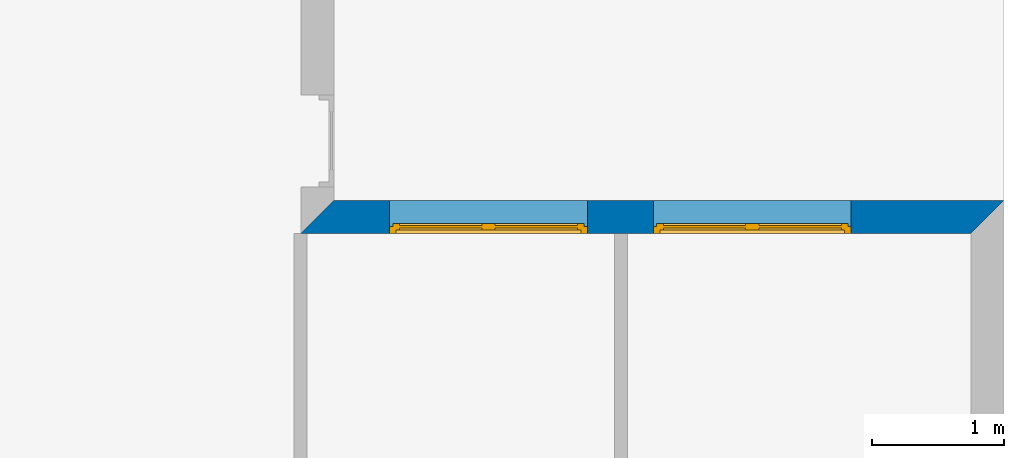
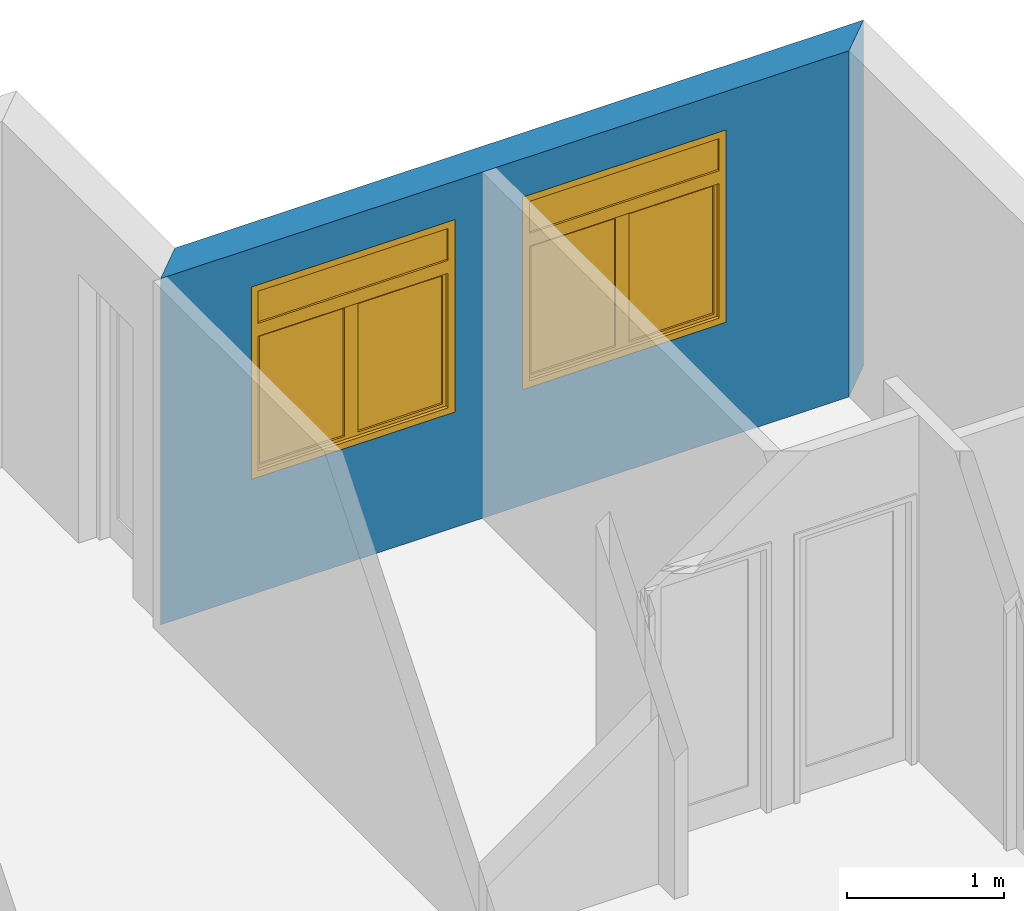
# One storey, part 13 of 13: 2 windows, 1 wall, 2 openings.
"""IFC2X3 building model written with IfcOpenShell, lengths in metres."""

from ifc_helpers import new_model, entity, si_unit, converted_unit, direction, frame, frame_2d, origin_with_axes, place, context, project, spatial, polyline, rectangle, outline, extrude, faceted_brep, source, transform, mapped, material, layer, layer_set, layer_usage, type_object, element, fill, save


model = new_model("IFC2X3")

# Units and contexts
context_of_model = context(None, 3, precision=1e-05, world=origin_with_axes(), true_north=direction((6.123234e-17, 1.0)))
plan_context = context("Plan", 3, precision=1e-05, world=origin_with_axes(), true_north=direction((6.123234e-17, 1.0)))
model_context = context("Model", 3, precision=1e-05, world=origin_with_axes(), true_north=direction((6.123234e-17, 1.0)))
ifc_project = project(units=[si_unit("LENGTHUNIT", "METRE"), si_unit("AREAUNIT", "SQUARE_METRE"), si_unit("VOLUMEUNIT", "CUBIC_METRE"), converted_unit("PLANEANGLEUNIT", "DEGREE", entity("IfcPlaneAngleMeasure", 0.017453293), si_unit("PLANEANGLEUNIT", "RADIAN"), dimensions=[0, 0, 0, 0, 0, 0, 0]), si_unit("SOLIDANGLEUNIT", "STERADIAN"), si_unit("MASSUNIT", "GRAM"), si_unit("TIMEUNIT", "SECOND"), si_unit("THERMODYNAMICTEMPERATUREUNIT", "DEGREE_CELSIUS"), si_unit("LUMINOUSINTENSITYUNIT", "LUMEN")], contexts=[context_of_model, plan_context, model_context])

# Site, building, storey
site_placement = place(None, origin_with_axes())
site = spatial("IfcSite", under=ifc_project, at=site_placement, Name="Por defecto Sitio", CompositionType="ELEMENT")
building_placement = place(site_placement, origin_with_axes())
building = spatial("IfcBuilding", under=site, at=building_placement, Name="Por defecto Edificio", CompositionType="ELEMENT")
storey_placement = place(building_placement, frame((0.0, 0.0, 7.2), z_axis=(0.0, 0.0, 1.0), x_axis=(1.0, 0.0, 0.0)))
storey = spatial("IfcBuildingStorey", under=building, at=storey_placement, Name="Segunda", CompositionType="ELEMENT", Elevation=7.2)

# Wall, openings, windows
ifc_material = material(Name="Ladrillo común")
ifc_layer = layer(ifc_material, 0.25, ventilated="UNKNOWN")
ifc_layer_set = layer_set([ifc_layer], Name="Ladrillo común")
ifc_layer_usage = layer_usage(ifc_layer_set, "AXIS2", "NEGATIVE", 0.0)
wall_type = type_object("IfcWallType", Name="Ladrillo común", PredefinedType="NOTDEFINED")
wall_placement = place(storey_placement, frame((10.956053, 13.449173, 0.0), z_axis=(0.0, 0.0, 1.0), x_axis=(1.0, 0.0, 0.0)))
wall = element("IfcWallStandardCase", 1, at=wall_placement, inside=storey, type_object=wall_type, material=ifc_layer_usage, Name="Muro-016", context=context_of_model, shape_type="SweptSolid", body=[
    extrude(outline(polyline([(-0.25, -0.25), (4.8281164, -0.25), (5.0781164, 0.0), (0.0, 0.0), (-0.25, -0.25)])), origin_with_axes(), (0.0, 0.0, 1.0), 2.7),
])
opening_1_placement = place(wall_placement, frame((3.1700422, -0.25, 0.9), z_axis=(0.0, 0.0, 1.0), x_axis=(1.0, 0.0, 0.0)))
opening_1 = element("IfcOpeningElement", 2, at=opening_1_placement, cuts=wall, ObjectType="Opening", context=model_context, shape_type="SweptSolid", body=[
    extrude(rectangle(XDim=1.5, YDim=1.5, at=frame_2d((0.0, 0.75), x_axis=(-1.0, 0.0))), frame((0.0, 0.0, 0.0), z_axis=(0.0, 1.0, 0.0), x_axis=(-1.0, 0.0, 0.0)), (0.0, 0.0, 1.0), 0.25),
])
opening_2_placement = place(wall_placement, frame((1.1700422, -0.25, 0.9), z_axis=(0.0, 0.0, 1.0), x_axis=(1.0, 0.0, 0.0)))
opening_2 = element("IfcOpeningElement", 3, at=opening_2_placement, cuts=wall, ObjectType="Opening", context=model_context, shape_type="SweptSolid", body=[
    extrude(rectangle(XDim=1.5, YDim=1.5, at=frame_2d((0.0, 0.75), x_axis=(-1.0, 0.0))), frame((0.0, 0.0, 0.0), z_axis=(0.0, 1.0, 0.0), x_axis=(-1.0, 0.0, 0.0)), (0.0, 0.0, 1.0), 0.25),
])
window_style_1 = type_object("IfcWindowStyle", Name="V M Doble 12", ConstructionType="NOTDEFINED", OperationType="DOUBLE_PANEL_HORIZONTAL", ParameterTakesPrecedence=False, Sizeable=False)
shared_shape_1 = source(origin_with_axes(), model_context, "Body", "Brep", [
    faceted_brep([(0.025, 0.05, 0.05), (0.0, 0.05, 0.05), (0.0, 0.05, 1.45), (0.05, 0.05, 1.45), (0.05, 0.05, 1.2), (0.05, 0.05, 1.125), (0.025, 0.05, 1.125), (0.025, 0.025, 0.05), (0.05, 0.025, 0.05), (0.05, 0.0, 0.05), (0.0, 0.0, 0.05), (0.0, 0.0, 1.45), (0.05, 0.0, 1.45), (0.05, 0.0, 1.2), (0.05, 0.025, 1.125), (0.05, 0.0, 1.1), (0.05, 0.025, 1.1), (0.025, 0.025, 1.125)], [[[0, 1, 2, 3, 4, 5, 6]], [[7, 8, 9, 10, 1, 0]], [[2, 1, 10, 11]], [[3, 2, 11, 12]], [[4, 3, 12, 13]], [[14, 5, 4, 13, 15, 16]], [[14, 17, 6, 5]], [[6, 17, 7, 0]], [[16, 8, 7, 17, 14]], [[16, 15, 9, 8]], [[13, 12, 11, 10, 9, 15]]]),
    faceted_brep([(1.475, 0.05, 1.125), (1.45, 0.05, 1.125), (1.45, 0.05, 1.2), (1.45, 0.05, 1.45), (1.5, 0.05, 1.45), (1.5, 0.05, 0.05), (1.475, 0.05, 0.05), (1.475, 0.025, 1.125), (1.45, 0.025, 1.125), (1.45, 0.025, 1.1), (1.45, 0.0, 1.1), (1.45, 0.0, 1.2), (1.45, 0.0, 1.45), (1.5, 0.0, 1.45), (1.5, 0.0, 0.05), (1.475, 0.025, 0.05), (1.45, 0.0, 0.05), (1.45, 0.025, 0.05)], [[[0, 1, 2, 3, 4, 5, 6]], [[0, 7, 8, 1]], [[8, 9, 10, 11, 2, 1]], [[3, 2, 11, 12]], [[4, 3, 12, 13]], [[5, 4, 13, 14]], [[15, 6, 5, 14, 16, 17]], [[6, 15, 7, 0]], [[17, 9, 8, 7, 15]], [[17, 16, 10, 9]], [[14, 13, 12, 11, 10, 16]]]),
    faceted_brep([(0.05, 0.05, 1.125), (0.05, 0.05, 1.2), (1.45, 0.05, 1.2), (1.45, 0.05, 1.125), (0.75, 0.05, 1.125), (0.05, 0.025, 1.125), (0.05, 0.025, 1.1), (0.05, 0.0, 1.1), (0.05, 0.0, 1.2), (1.45, 0.0, 1.2), (1.45, 0.025, 1.125), (1.45, 0.0, 1.1), (1.45, 0.025, 1.1), (0.75, 0.025, 1.125)], [[[0, 1, 2, 3, 4]], [[5, 6, 7, 8, 1, 0]], [[2, 1, 8, 9]], [[10, 3, 2, 9, 11, 12]], [[10, 13, 4, 3]], [[4, 13, 5, 0]], [[12, 6, 5, 13, 10]], [[12, 11, 7, 6]], [[9, 8, 7, 11]]]),
    faceted_brep([(1.45, 0.025, 0.05), (1.45, 0.0, 0.05), (1.5, 0.0, 0.05), (1.5, 0.05, 0.05), (1.475, 0.05, 0.05), (1.475, 0.025, 0.05), (0.05, 0.025, 0.05), (0.05, 0.0, 0.05), (0.0, 0.0, 0.05), (0.0, 0.0, 0.0), (1.5, 0.0, 0.0), (1.5, 0.05, 0.0), (0.025, 0.05, 0.025), (0.75, 0.05, 0.025), (1.475, 0.05, 0.025), (0.0, 0.05, 0.0), (0.0, 0.05, 0.05), (0.025, 0.05, 0.05), (1.475, 0.025, 0.025), (0.75, 0.025, 0.025), (0.025, 0.025, 0.025), (0.025, 0.025, 0.05)], [[[0, 1, 2, 3, 4, 5]], [[6, 7, 1, 0]], [[8, 9, 10, 2, 1, 7]], [[11, 3, 2, 10]], [[12, 13, 14, 4, 3, 11, 15, 16, 17]], [[14, 18, 5, 4]], [[5, 18, 19, 20, 21, 6, 0]], [[21, 17, 16, 8, 7, 6]], [[16, 15, 9, 8]], [[15, 11, 10, 9]], [[12, 20, 19, 13]], [[13, 19, 18, 14]], [[21, 20, 12, 17]]]),
    faceted_brep([(1.45, 0.0, 1.45), (1.45, 0.05, 1.45), (1.5, 0.05, 1.45), (1.5, 0.0, 1.45), (0.05, 0.0, 1.45), (0.05, 0.05, 1.45), (0.0, 0.05, 1.45), (0.0, 0.05, 1.5), (1.5, 0.05, 1.5), (1.5, 0.0, 1.5), (0.0, 0.0, 1.5), (0.0, 0.0, 1.45)], [[[0, 1, 2, 3]], [[4, 5, 1, 0]], [[1, 5, 6, 7, 8, 2]], [[3, 2, 8, 9]], [[0, 3, 9, 10, 11, 4]], [[11, 6, 5, 4]], [[10, 7, 6, 11]], [[9, 8, 7, 10]]]),
    faceted_brep([(1.425, 0.025, 0.075), (1.425, 0.025, 1.075), (1.425, 0.075, 1.075), (1.425, 0.075, 0.075), (1.475, 0.025, 0.075), (1.475, 0.025, 1.075), (1.475, 0.075, 1.075), (1.475, 0.075, 0.075)], [[[0, 1, 2, 3]], [[0, 4, 5, 1]], [[1, 5, 6, 2]], [[3, 2, 6, 7]], [[4, 0, 3, 7]], [[5, 4, 7, 6]]]),
    faceted_brep([(0.75, 0.025, 0.075), (0.75, 0.025, 1.075), (0.75, 0.075, 1.075), (0.75, 0.075, 0.075), (0.8, 0.025, 0.075), (0.8, 0.025, 1.075), (0.8, 0.075, 1.075), (0.8, 0.075, 0.075)], [[[0, 1, 2, 3]], [[0, 4, 5, 1]], [[1, 5, 6, 2]], [[3, 2, 6, 7]], [[4, 0, 3, 7]], [[5, 4, 7, 6]]]),
    faceted_brep([(0.75, 0.025, 0.025), (0.75, 0.025, 0.075), (0.75, 0.075, 0.075), (0.75, 0.075, 0.025), (1.475, 0.025, 0.025), (1.475, 0.025, 0.075), (1.425, 0.025, 0.075), (0.8, 0.025, 0.075), (0.8, 0.075, 0.075), (1.425, 0.075, 0.075), (1.475, 0.075, 0.075), (1.475, 0.075, 0.025)], [[[0, 1, 2, 3]], [[0, 4, 5, 6, 7, 1]], [[1, 7, 8, 2]], [[3, 2, 8, 9, 10, 11]], [[4, 0, 3, 11]], [[5, 4, 11, 10]], [[6, 5, 10, 9]], [[7, 6, 9, 8]]]),
    faceted_brep([(1.475, 0.025, 1.125), (1.475, 0.025, 1.075), (1.475, 0.075, 1.075), (1.475, 0.075, 1.125), (0.75, 0.025, 1.125), (0.75, 0.025, 1.075), (0.8, 0.025, 1.075), (1.425, 0.025, 1.075), (1.425, 0.075, 1.075), (0.8, 0.075, 1.075), (0.75, 0.075, 1.075), (0.75, 0.075, 1.125)], [[[0, 1, 2, 3]], [[0, 4, 5, 6, 7, 1]], [[1, 7, 8, 2]], [[3, 2, 8, 9, 10, 11]], [[4, 0, 3, 11]], [[5, 4, 11, 10]], [[6, 5, 10, 9]], [[7, 6, 9, 8]]]),
    faceted_brep([(1.425, 0.04, 0.075), (0.8, 0.04, 0.075), (0.8, 0.06, 0.075), (1.425, 0.06, 0.075), (1.425, 0.04, 1.075), (0.8, 0.04, 1.075), (0.8, 0.06, 1.075), (1.425, 0.06, 1.075)], [[[0, 1, 2, 3]], [[0, 4, 5, 1]], [[1, 5, 6, 2]], [[3, 2, 6, 7]], [[4, 0, 3, 7]], [[5, 4, 7, 6]]]),
    faceted_brep([(0.7, 0.025, 0.075), (0.7, 0.025, 1.075), (0.7, 0.075, 1.075), (0.7, 0.075, 0.075), (0.75, 0.025, 0.075), (0.75, 0.025, 1.075), (0.75, 0.075, 1.075), (0.75, 0.075, 0.075)], [[[0, 1, 2, 3]], [[0, 4, 5, 1]], [[1, 5, 6, 2]], [[3, 2, 6, 7]], [[4, 0, 3, 7]], [[5, 4, 7, 6]]]),
    faceted_brep([(0.025, 0.025, 0.075), (0.025, 0.025, 1.075), (0.025, 0.075, 1.075), (0.025, 0.075, 0.075), (0.075, 0.025, 0.075), (0.075, 0.025, 1.075), (0.075, 0.075, 1.075), (0.075, 0.075, 0.075)], [[[0, 1, 2, 3]], [[0, 4, 5, 1]], [[1, 5, 6, 2]], [[3, 2, 6, 7]], [[4, 0, 3, 7]], [[5, 4, 7, 6]]]),
    faceted_brep([(0.025, 0.025, 0.025), (0.025, 0.025, 0.075), (0.025, 0.075, 0.075), (0.025, 0.075, 0.025), (0.75, 0.025, 0.025), (0.75, 0.025, 0.075), (0.7, 0.025, 0.075), (0.075, 0.025, 0.075), (0.075, 0.075, 0.075), (0.7, 0.075, 0.075), (0.75, 0.075, 0.075), (0.75, 0.075, 0.025)], [[[0, 1, 2, 3]], [[0, 4, 5, 6, 7, 1]], [[1, 7, 8, 2]], [[3, 2, 8, 9, 10, 11]], [[4, 0, 3, 11]], [[5, 4, 11, 10]], [[6, 5, 10, 9]], [[7, 6, 9, 8]]]),
    faceted_brep([(0.75, 0.025, 1.125), (0.75, 0.025, 1.075), (0.75, 0.075, 1.075), (0.75, 0.075, 1.125), (0.025, 0.025, 1.125), (0.025, 0.025, 1.075), (0.075, 0.025, 1.075), (0.7, 0.025, 1.075), (0.7, 0.075, 1.075), (0.075, 0.075, 1.075), (0.025, 0.075, 1.075), (0.025, 0.075, 1.125)], [[[0, 1, 2, 3]], [[0, 4, 5, 6, 7, 1]], [[1, 7, 8, 2]], [[3, 2, 8, 9, 10, 11]], [[4, 0, 3, 11]], [[5, 4, 11, 10]], [[6, 5, 10, 9]], [[7, 6, 9, 8]]]),
    faceted_brep([(0.7, 0.04, 0.075), (0.075, 0.04, 0.075), (0.075, 0.06, 0.075), (0.7, 0.06, 0.075), (0.7, 0.04, 1.075), (0.075, 0.04, 1.075), (0.075, 0.06, 1.075), (0.7, 0.06, 1.075)], [[[0, 1, 2, 3]], [[0, 4, 5, 1]], [[1, 5, 6, 2]], [[3, 2, 6, 7]], [[4, 0, 3, 7]], [[5, 4, 7, 6]]]),
    faceted_brep([(1.45, 0.015, 1.2), (0.05, 0.015, 1.2), (0.05, 0.035, 1.2), (1.45, 0.035, 1.2), (1.45, 0.015, 1.45), (0.05, 0.015, 1.45), (0.05, 0.035, 1.45), (1.45, 0.035, 1.45)], [[[0, 1, 2, 3]], [[0, 4, 5, 1]], [[1, 5, 6, 2]], [[3, 2, 6, 7]], [[4, 0, 3, 7]], [[5, 4, 7, 6]]]),
])
window_1_placement = place(opening_1_placement, frame((-0.75, 0.0, 0.0), z_axis=(0.0, 0.0, 1.0), x_axis=(1.0, 0.0, 0.0)))
window_1 = element("IfcWindow", 4, at=window_1_placement, inside=storey, type_object=window_style_1, Name="V10", OverallHeight=1.5, OverallWidth=1.5, context=model_context, shape_type="MappedRepresentation", body=[
    mapped(shared_shape_1, transform((0.0, 0.0, 0.0), scale=1.0)),
])
fill(opening_1, window_1)
window_style_2 = type_object("IfcWindowStyle", Name="V M Doble 12", ConstructionType="NOTDEFINED", OperationType="DOUBLE_PANEL_HORIZONTAL", ParameterTakesPrecedence=False, Sizeable=False)
shared_shape_2 = source(origin_with_axes(), model_context, "Body", "Brep", [
    faceted_brep([(1.475, 0.05, 0.05), (1.475, 0.05, 1.125), (1.45, 0.05, 1.125), (1.45, 0.05, 1.2), (1.45, 0.05, 1.45), (1.5, 0.05, 1.45), (1.5, 0.05, 0.05), (1.475, 0.025, 0.05), (1.475, 0.025, 1.125), (1.45, 0.025, 1.125), (1.45, 0.025, 1.1), (1.45, 0.0, 1.1), (1.45, 0.0, 1.2), (1.45, 0.0, 1.45), (1.5, 0.0, 1.45), (1.5, 0.0, 0.05), (1.45, 0.0, 0.05), (1.45, 0.025, 0.05)], [[[0, 1, 2, 3, 4, 5, 6]], [[1, 0, 7, 8]], [[9, 2, 1, 8]], [[9, 10, 11, 12, 3, 2]], [[3, 12, 13, 4]], [[4, 13, 14, 5]], [[5, 14, 15, 6]], [[7, 0, 6, 15, 16, 17]], [[10, 9, 8, 7, 17]], [[10, 17, 16, 11]], [[12, 11, 16, 15, 14, 13]]]),
    faceted_brep([(0.025, 0.05, 1.125), (0.025, 0.05, 0.05), (0.0, 0.05, 0.05), (0.0, 0.05, 1.45), (0.05, 0.05, 1.45), (0.05, 0.05, 1.2), (0.05, 0.05, 1.125), (0.025, 0.025, 1.125), (0.025, 0.025, 0.05), (0.05, 0.025, 0.05), (0.05, 0.0, 0.05), (0.0, 0.0, 0.05), (0.0, 0.0, 1.45), (0.05, 0.0, 1.45), (0.05, 0.0, 1.2), (0.05, 0.025, 1.125), (0.05, 0.0, 1.1), (0.05, 0.025, 1.1)], [[[0, 1, 2, 3, 4, 5, 6]], [[1, 0, 7, 8]], [[8, 9, 10, 11, 2, 1]], [[2, 11, 12, 3]], [[3, 12, 13, 4]], [[4, 13, 14, 5]], [[15, 6, 5, 14, 16, 17]], [[0, 6, 15, 7]], [[9, 8, 7, 15, 17]], [[9, 17, 16, 10]], [[11, 10, 16, 14, 13, 12]]]),
    faceted_brep([(1.45, 0.05, 1.125), (0.75, 0.05, 1.125), (0.05, 0.05, 1.125), (0.05, 0.05, 1.2), (1.45, 0.05, 1.2), (1.45, 0.025, 1.125), (0.75, 0.025, 1.125), (0.05, 0.025, 1.125), (0.05, 0.025, 1.1), (0.05, 0.0, 1.1), (0.05, 0.0, 1.2), (1.45, 0.0, 1.2), (1.45, 0.0, 1.1), (1.45, 0.025, 1.1)], [[[0, 1, 2, 3, 4]], [[1, 0, 5, 6]], [[7, 2, 1, 6]], [[7, 8, 9, 10, 3, 2]], [[3, 10, 11, 4]], [[5, 0, 4, 11, 12, 13]], [[8, 7, 6, 5, 13]], [[8, 13, 12, 9]], [[10, 9, 12, 11]]]),
    faceted_brep([(0.05, 0.025, 0.05), (0.025, 0.025, 0.05), (0.025, 0.05, 0.05), (0.0, 0.05, 0.05), (0.0, 0.0, 0.05), (0.05, 0.0, 0.05), (1.45, 0.025, 0.05), (1.475, 0.025, 0.05), (1.475, 0.025, 0.025), (0.75, 0.025, 0.025), (0.025, 0.025, 0.025), (0.025, 0.05, 0.025), (1.475, 0.05, 0.025), (1.475, 0.05, 0.05), (1.5, 0.05, 0.05), (1.5, 0.05, 0.0), (0.0, 0.05, 0.0), (0.75, 0.05, 0.025), (0.0, 0.0, 0.0), (1.5, 0.0, 0.05), (1.45, 0.0, 0.05), (1.5, 0.0, 0.0)], [[[0, 1, 2, 3, 4, 5]], [[1, 0, 6, 7, 8, 9, 10]], [[11, 2, 1, 10]], [[12, 13, 14, 15, 16, 3, 2, 11, 17]], [[16, 18, 4, 3]], [[19, 20, 5, 4, 18, 21]], [[6, 0, 5, 20]], [[7, 6, 20, 19, 14, 13]], [[7, 13, 12, 8]], [[12, 17, 9, 8]], [[17, 11, 10, 9]], [[14, 19, 21, 15]], [[15, 21, 18, 16]]]),
    faceted_brep([(0.05, 0.0, 1.45), (0.0, 0.0, 1.45), (0.0, 0.05, 1.45), (0.05, 0.05, 1.45), (1.45, 0.0, 1.45), (1.5, 0.0, 1.45), (1.5, 0.0, 1.5), (0.0, 0.0, 1.5), (0.0, 0.05, 1.5), (1.5, 0.05, 1.5), (1.5, 0.05, 1.45), (1.45, 0.05, 1.45)], [[[0, 1, 2, 3]], [[0, 4, 5, 6, 7, 1]], [[1, 7, 8, 2]], [[3, 2, 8, 9, 10, 11]], [[4, 0, 3, 11]], [[5, 4, 11, 10]], [[6, 5, 10, 9]], [[7, 6, 9, 8]]]),
    faceted_brep([(0.075, 0.025, 0.075), (0.075, 0.075, 0.075), (0.075, 0.075, 1.075), (0.075, 0.025, 1.075), (0.025, 0.025, 0.075), (0.025, 0.075, 0.075), (0.025, 0.075, 1.075), (0.025, 0.025, 1.075)], [[[0, 1, 2, 3]], [[4, 5, 1, 0]], [[1, 5, 6, 2]], [[3, 2, 6, 7]], [[0, 3, 7, 4]], [[7, 6, 5, 4]]]),
    faceted_brep([(0.75, 0.025, 0.075), (0.75, 0.075, 0.075), (0.75, 0.075, 1.075), (0.75, 0.025, 1.075), (0.7, 0.025, 0.075), (0.7, 0.075, 0.075), (0.7, 0.075, 1.075), (0.7, 0.025, 1.075)], [[[0, 1, 2, 3]], [[4, 5, 1, 0]], [[1, 5, 6, 2]], [[3, 2, 6, 7]], [[0, 3, 7, 4]], [[7, 6, 5, 4]]]),
    faceted_brep([(0.75, 0.025, 0.025), (0.75, 0.075, 0.025), (0.75, 0.075, 0.075), (0.75, 0.025, 0.075), (0.025, 0.025, 0.025), (0.025, 0.075, 0.025), (0.025, 0.075, 0.075), (0.075, 0.075, 0.075), (0.7, 0.075, 0.075), (0.7, 0.025, 0.075), (0.075, 0.025, 0.075), (0.025, 0.025, 0.075)], [[[0, 1, 2, 3]], [[4, 5, 1, 0]], [[1, 5, 6, 7, 8, 2]], [[3, 2, 8, 9]], [[0, 3, 9, 10, 11, 4]], [[11, 6, 5, 4]], [[10, 7, 6, 11]], [[9, 8, 7, 10]]]),
    faceted_brep([(0.025, 0.025, 1.125), (0.025, 0.075, 1.125), (0.025, 0.075, 1.075), (0.025, 0.025, 1.075), (0.75, 0.025, 1.125), (0.75, 0.075, 1.125), (0.75, 0.075, 1.075), (0.7, 0.075, 1.075), (0.075, 0.075, 1.075), (0.075, 0.025, 1.075), (0.7, 0.025, 1.075), (0.75, 0.025, 1.075)], [[[0, 1, 2, 3]], [[4, 5, 1, 0]], [[1, 5, 6, 7, 8, 2]], [[3, 2, 8, 9]], [[0, 3, 9, 10, 11, 4]], [[11, 6, 5, 4]], [[10, 7, 6, 11]], [[9, 8, 7, 10]]]),
    faceted_brep([(0.075, 0.04, 0.075), (0.075, 0.06, 0.075), (0.7, 0.06, 0.075), (0.7, 0.04, 0.075), (0.075, 0.04, 1.075), (0.075, 0.06, 1.075), (0.7, 0.06, 1.075), (0.7, 0.04, 1.075)], [[[0, 1, 2, 3]], [[4, 5, 1, 0]], [[1, 5, 6, 2]], [[3, 2, 6, 7]], [[0, 3, 7, 4]], [[7, 6, 5, 4]]]),
    faceted_brep([(0.8, 0.025, 0.075), (0.8, 0.075, 0.075), (0.8, 0.075, 1.075), (0.8, 0.025, 1.075), (0.75, 0.025, 0.075), (0.75, 0.075, 0.075), (0.75, 0.075, 1.075), (0.75, 0.025, 1.075)], [[[0, 1, 2, 3]], [[4, 5, 1, 0]], [[1, 5, 6, 2]], [[3, 2, 6, 7]], [[0, 3, 7, 4]], [[7, 6, 5, 4]]]),
    faceted_brep([(1.475, 0.025, 0.075), (1.475, 0.075, 0.075), (1.475, 0.075, 1.075), (1.475, 0.025, 1.075), (1.425, 0.025, 0.075), (1.425, 0.075, 0.075), (1.425, 0.075, 1.075), (1.425, 0.025, 1.075)], [[[0, 1, 2, 3]], [[4, 5, 1, 0]], [[1, 5, 6, 2]], [[3, 2, 6, 7]], [[0, 3, 7, 4]], [[7, 6, 5, 4]]]),
    faceted_brep([(1.475, 0.025, 0.025), (1.475, 0.075, 0.025), (1.475, 0.075, 0.075), (1.475, 0.025, 0.075), (0.75, 0.025, 0.025), (0.75, 0.075, 0.025), (0.75, 0.075, 0.075), (0.8, 0.075, 0.075), (1.425, 0.075, 0.075), (1.425, 0.025, 0.075), (0.8, 0.025, 0.075), (0.75, 0.025, 0.075)], [[[0, 1, 2, 3]], [[4, 5, 1, 0]], [[1, 5, 6, 7, 8, 2]], [[3, 2, 8, 9]], [[0, 3, 9, 10, 11, 4]], [[11, 6, 5, 4]], [[10, 7, 6, 11]], [[9, 8, 7, 10]]]),
    faceted_brep([(0.75, 0.025, 1.125), (0.75, 0.075, 1.125), (0.75, 0.075, 1.075), (0.75, 0.025, 1.075), (1.475, 0.025, 1.125), (1.475, 0.075, 1.125), (1.475, 0.075, 1.075), (1.425, 0.075, 1.075), (0.8, 0.075, 1.075), (0.8, 0.025, 1.075), (1.425, 0.025, 1.075), (1.475, 0.025, 1.075)], [[[0, 1, 2, 3]], [[4, 5, 1, 0]], [[1, 5, 6, 7, 8, 2]], [[3, 2, 8, 9]], [[0, 3, 9, 10, 11, 4]], [[11, 6, 5, 4]], [[10, 7, 6, 11]], [[9, 8, 7, 10]]]),
    faceted_brep([(0.8, 0.04, 0.075), (0.8, 0.06, 0.075), (1.425, 0.06, 0.075), (1.425, 0.04, 0.075), (0.8, 0.04, 1.075), (0.8, 0.06, 1.075), (1.425, 0.06, 1.075), (1.425, 0.04, 1.075)], [[[0, 1, 2, 3]], [[4, 5, 1, 0]], [[1, 5, 6, 2]], [[3, 2, 6, 7]], [[0, 3, 7, 4]], [[7, 6, 5, 4]]]),
    faceted_brep([(0.05, 0.015, 1.2), (0.05, 0.035, 1.2), (1.45, 0.035, 1.2), (1.45, 0.015, 1.2), (0.05, 0.015, 1.45), (0.05, 0.035, 1.45), (1.45, 0.035, 1.45), (1.45, 0.015, 1.45)], [[[0, 1, 2, 3]], [[4, 5, 1, 0]], [[1, 5, 6, 2]], [[3, 2, 6, 7]], [[0, 3, 7, 4]], [[7, 6, 5, 4]]]),
])
window_2_placement = place(opening_2_placement, frame((-0.75, 0.0, 0.0), z_axis=(0.0, 0.0, 1.0), x_axis=(1.0, 0.0, 0.0)))
window_2 = element("IfcWindow", 5, at=window_2_placement, inside=storey, type_object=window_style_2, Name="V11", OverallHeight=1.5, OverallWidth=1.5, context=model_context, shape_type="MappedRepresentation", body=[
    mapped(shared_shape_2, transform((0.0, 0.0, 0.0), scale=1.0)),
])
fill(opening_2, window_2)

save(model, "model.ifc")
